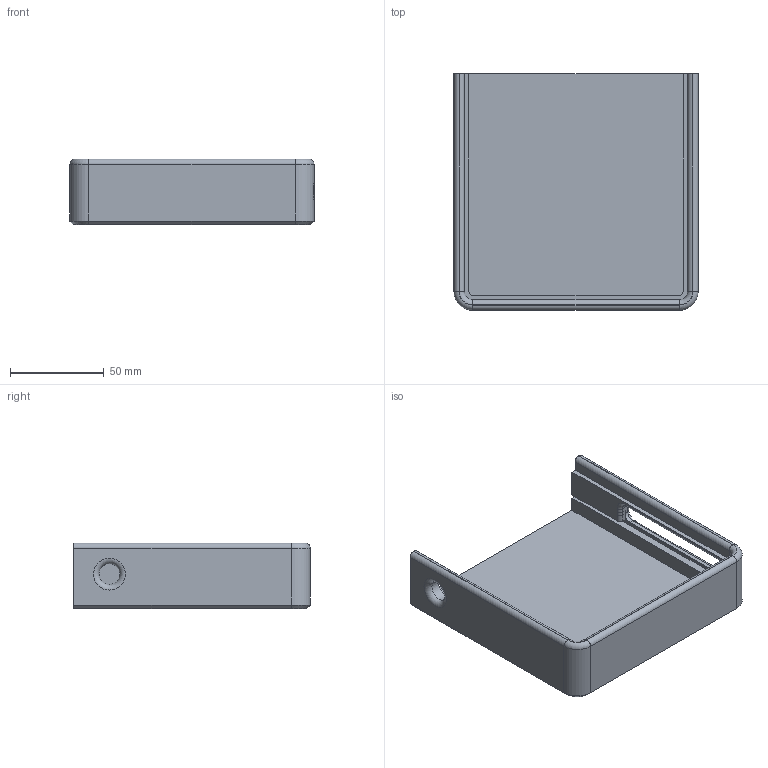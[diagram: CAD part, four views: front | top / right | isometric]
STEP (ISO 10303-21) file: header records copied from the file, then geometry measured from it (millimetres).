
FILE_DESCRIPTION(('FreeCAD Model'),'2;1');
FILE_NAME('Open CASCADE Shape Model','2026-04-24T14:15:34',(''),(''), 'Open CASCADE STEP processor 7.6','FreeCAD','Unknown');
FILE_SCHEMA(('AUTOMOTIVE_DESIGN { 1 0 10303 214 1 1 1 1 }'));
Length unit declared in the file: millimetre
Products named in the file (1): Chamfer
Bounding box: 130 x 126 x 35 mm (x, y, z)
Volume: 108067.1 mm3; surface area: 58026.7 mm2
Topology: 1 solids, 1 shells, 89 faces, 222 edges, 135 vertices
Faces by surface type: plane 39, cylinder 34, torus 11, bspline 3, cone 2
Full cylindrical faces by diameter (mm): 2.8 x2, 11 x1
Entity records: 2735 total; most frequent: CARTESIAN_POINT 569, DIRECTION 465, ORIENTED_EDGE 444, EDGE_CURVE 222, AXIS2_PLACEMENT_3D 165, VERTEX_POINT 135, LINE 135, VECTOR 135
